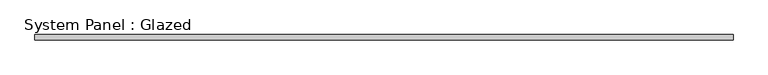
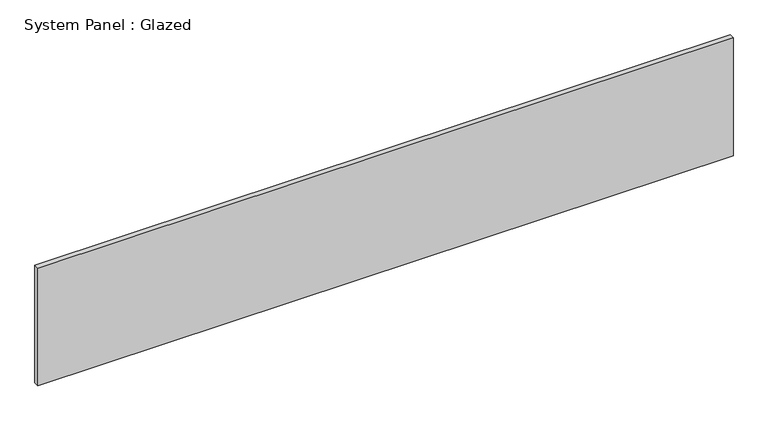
"""IFC4 building model written with IfcOpenShell, lengths in millimetres: plate geometry, System Panel : Glazed."""

from ifc_helpers import new_model, si_unit, origin, origin_with_axes, place, context, project, spatial, polyline, outline, extrude, source, transform, mapped, element, save


def system_panel_glazed_8d3b8640(model_context):
    return source(origin(), model_context, "Body", "SweptSolid", [
        extrude(outline(polyline([(1675.0, -49.5), (-1675.0, -49.5), (-1675.0, -24.5), (1675.0, -24.5), (1675.0, -49.5)])), origin_with_axes(), (0.0, 0.0, 1.0), 600.0),
    ])


if __name__ == "__main__":
    model = new_model("IFC4")
    model_context = context("Model", 3, world=origin())
    ifc_project = project(units=[si_unit("LENGTHUNIT", "METRE", prefix="MILLI")], contexts=[model_context])
    site = spatial("IfcSite", under=ifc_project)
    building = spatial("IfcBuilding", under=site)
    placement = place(None, origin())
    system_panel_glazed_shape = system_panel_glazed_8d3b8640(model_context)
    element("IfcPlate", 1, ObjectType="System Panel : Glazed", at=placement, inside=building, context=model_context, shape_type="MappedRepresentation", body=[
        mapped(system_panel_glazed_shape, transform((0.0, 0.0, 0.0), x_axis=(1.0, 0.0, 0.0), y_axis=(0.0, 1.0, 0.0), z_axis=(0.0, 0.0, 1.0))),
    ])
    save(model, "model.ifc")
